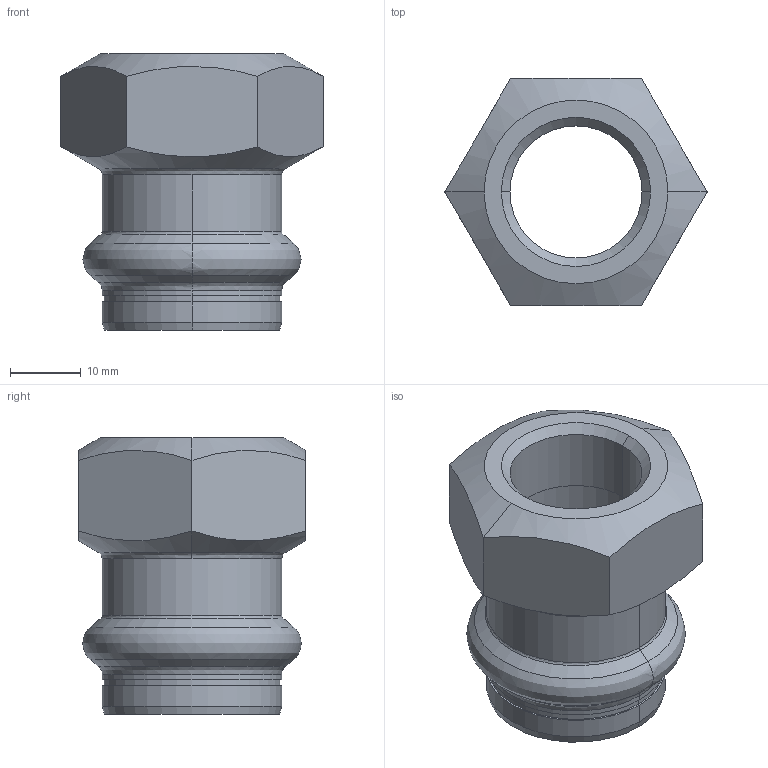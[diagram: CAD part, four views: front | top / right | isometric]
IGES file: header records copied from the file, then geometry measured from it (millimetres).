
Start section: Elysium IGES Interface
Global section: file name: F:\3d modellen sudo\S-Pr VP\SP6270GV\6270GVW2212.igs; native system: CoCreate Modeling 17.00A  17-Jun-2010; preprocessor: CoCreate IGES_3D V2.2; author: Unknown; organization: Unknown; date: 20130128.123857; units: millimetre
Bounding box: 36.95 x 32 x 39 mm (x, y, z)
Volume: 12350.6 mm3; surface area: 7400.8 mm2
Topology: 1 solids, 1 shells, 56 faces, 124 edges, 70 vertices
Faces by surface type: bspline 56
